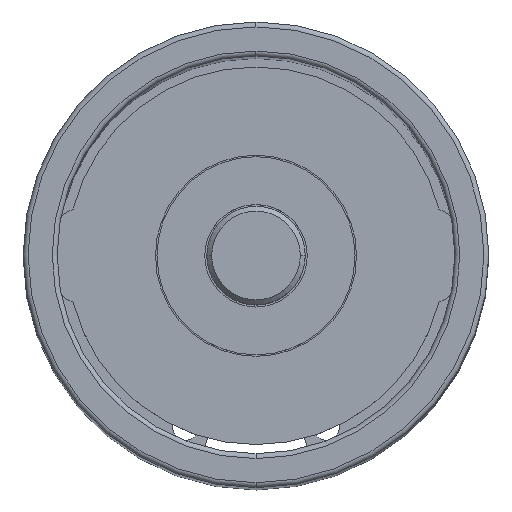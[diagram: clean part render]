
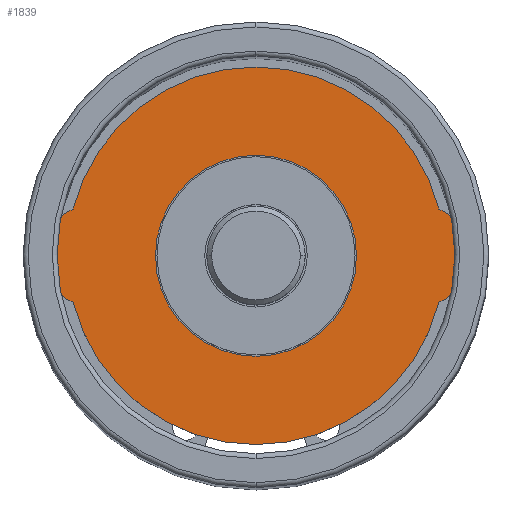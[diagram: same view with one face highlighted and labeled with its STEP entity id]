
A CAD part, top view. The second image highlights one B-rep face of the part: STEP entity #1839.
In plain terms, the highlighted planar face has unit normal (0, 0, 1).
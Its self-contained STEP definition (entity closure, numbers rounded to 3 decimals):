
#1701=CARTESIAN_POINT('',(10.2,0.,0.));
#1702=VERTEX_POINT('',#1701);
#1718=CARTESIAN_POINT('',(-10.2,0.,0.0));
#1719=VERTEX_POINT('',#1718);
#1726=CARTESIAN_POINT('',(0.0,0.,0.0));
#1727=DIRECTION('',(0.0,0.0,-1.0));
#1728=DIRECTION('',(1.0,0.0,0.0));
#1729=AXIS2_PLACEMENT_3D('',#1726,#1727,#1728);
#1730=CIRCLE('',#1729,10.2);
#1731=EDGE_CURVE('',#1702,#1719,#1730,.T.);
#1742=CARTESIAN_POINT('',(0.0,0.,0.0));
#1743=DIRECTION('',(0.0,0.0,-1.0));
#1744=DIRECTION('',(1.0,0.0,0.0));
#1745=AXIS2_PLACEMENT_3D('',#1742,#1743,#1744);
#1746=CIRCLE('',#1745,10.2);
#1747=EDGE_CURVE('',#1719,#1702,#1746,.T.);
#1767=CARTESIAN_POINT('',(-18.553,4.745,0.));
#1768=VERTEX_POINT('',#1767);
#1784=CARTESIAN_POINT('',(-18.553,-4.745,0.));
#1785=VERTEX_POINT('',#1784);
#1792=CARTESIAN_POINT('',(-16.425,0.,0.));
#1793=DIRECTION('',(0.0,0.0,-1.0));
#1794=DIRECTION('',(1.0,0.0,0.0));
#1795=AXIS2_PLACEMENT_3D('',#1792,#1793,#1794);
#1796=CIRCLE('',#1795,5.2);
#1797=EDGE_CURVE('',#1785,#1768,#1796,.T.);
#1802=CARTESIAN_POINT('',(0.0,0.,0.));
#1803=DIRECTION('',(0.0,0.0,1.0));
#1804=DIRECTION('',(1.0,0.0,0.0));
#1805=AXIS2_PLACEMENT_3D('',#1802,#1803,#1804);
#1806=PLANE('',#1805);
#1807=CARTESIAN_POINT('',(18.553,-4.745,0.));
#1808=VERTEX_POINT('',#1807);
#1809=CARTESIAN_POINT('',(0.0,0.,0.));
#1810=DIRECTION('',(0.0,0.0,-1.0));
#1811=DIRECTION('',(1.0,0.0,0.0));
#1812=AXIS2_PLACEMENT_3D('',#1809,#1810,#1811);
#1813=CIRCLE('',#1812,19.15);
#1814=EDGE_CURVE('',#1808,#1785,#1813,.T.);
#1815=ORIENTED_EDGE('',*,*,#1814,.F.);
#1816=CARTESIAN_POINT('',(18.553,4.745,0.));
#1817=VERTEX_POINT('',#1816);
#1818=CARTESIAN_POINT('',(16.425,0.,0.));
#1819=DIRECTION('',(0.0,0.0,-1.0));
#1820=DIRECTION('',(1.0,0.0,0.0));
#1821=AXIS2_PLACEMENT_3D('',#1818,#1819,#1820);
#1822=CIRCLE('',#1821,5.2);
#1823=EDGE_CURVE('',#1817,#1808,#1822,.T.);
#1824=ORIENTED_EDGE('',*,*,#1823,.F.);
#1825=CARTESIAN_POINT('',(0.0,0.,0.));
#1826=DIRECTION('',(0.0,0.0,-1.0));
#1827=DIRECTION('',(1.0,0.0,0.0));
#1828=AXIS2_PLACEMENT_3D('',#1825,#1826,#1827);
#1829=CIRCLE('',#1828,19.15);
#1830=EDGE_CURVE('',#1768,#1817,#1829,.T.);
#1831=ORIENTED_EDGE('',*,*,#1830,.F.);
#1832=ORIENTED_EDGE('',*,*,#1797,.F.);
#1833=EDGE_LOOP('',(#1815,#1824,#1831,#1832));
#1834=FACE_OUTER_BOUND('',#1833,.T.);
#1835=ORIENTED_EDGE('',*,*,#1731,.T.);
#1836=ORIENTED_EDGE('',*,*,#1747,.T.);
#1837=EDGE_LOOP('',(#1835,#1836));
#1838=FACE_BOUND('',#1837,.T.);
#1839=ADVANCED_FACE('',(#1834,#1838),#1806,.T.);
